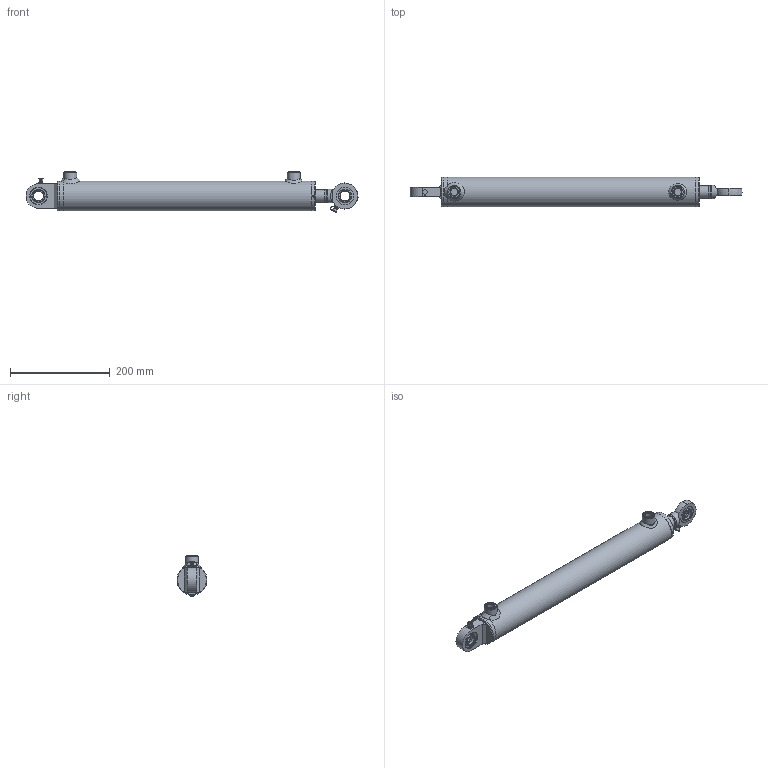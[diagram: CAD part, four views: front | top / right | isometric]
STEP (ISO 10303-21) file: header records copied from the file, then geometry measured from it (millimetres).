
FILE_DESCRIPTION( ( 'Unknown' ), '1' );
FILE_NAME( 'E:/LIBRERIA_3d/CILINDRI/HMB/HMB2250400.stp', 'Unknown', ( 'Unknown' ), ( 'Unknown' ), 'PSStep 17.0.49', 'Unknown', ' ' );
FILE_SCHEMA( ( 'AUTOMOTIVE_DESIGN { 1 0 10303 214 1 1 1 1 }' ) );
Length unit declared in the file: millimetre
Products named in the file (38): CSTSF020N0; AN00006001; CSTS020N_CORPO-oa0; CSAI002035; CSAI002035-oa1; STL2500400-oa8; Saldatura d'angolo 1-oa6; FTM2500400-oa7; CBSC220600; cstsf020c0; tsc20c_CORPO; CG06005025; CT00050020; CSTS020N00; CGE0200000; APGR013000; CSTS020C00; HM02250400; Saldatura con preparazione 1-oa4; Saldatura d'angolo 1-oa5; CF00050060; CBS0600000; CDA0002015; APG0600000; SBL2520400; Assem1; Saldatura d'angolo 1-oa2; Saldatura d'angolo 2-oa3
Assembly tree (30 placements, depth 4):
  Saldatura d'angolo 1-oa6
  Saldatura d'angolo 1-oa6
  Saldatura d'angolo 1-oa5
  Saldatura d'angolo 1-oa5
  Assem1
    CSTS020N00
      CGE0200000
      APGR013000
      CSTSF020N0
        AN00006001
        CSTS020N_CORPO-oa0
        CSAI002035
        CSAI002035-oa1
    CSTS020C00
      CGE0200000
      APGR013000
      cstsf020c0
        tsc20c_CORPO
        AN00006001
    HM02250400
      Saldatura con preparazione 1-oa4
      Saldatura con preparazione 1-oa4
      CF00050060
      CBS0600000
      CDA0002015
      APG0600000  x2
      SBL2520400
      CT00050020
        CT00050020
      CG06005025
        CG06005025
      STL2500400-oa8
        FTM2500400-oa7
        CBSC220600
Bounding box: 667.31 x 60 x 81.82 mm (x, y, z)
Volume: 921790.8 mm3; surface area: 316367.1 mm2
Topology: 32 solids, 32 shells, 363 faces, 747 edges, 473 vertices
Faces by surface type: plane 144, cylinder 92, cone 46, torus 46, bspline 28, sphere 7
Full cylindrical faces by diameter (mm): 2 x4, 3 x1, 4 x3, 4.25 x2, 5 x7, 6 x2, 7 x2, 8 x2, 9 x2, 14.95 x2, 16 x2, 16.6 x2, 19.4 x1, 20 x9, 22 x2, 24.5 x1, 25 x4, 26 x2, 27 x1, 27.5 x1, 28 x1, 30 x1, 33 x2, 33.6 x1, 34 x1, 35 x9, 45 x1, 45.41 x2, 48.66 x2, 49.9 x1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
Entity records: 14301 total; most frequent: CARTESIAN_POINT 5533, DIRECTION 1306, ORIENTED_EDGE 840, AXIS2_PLACEMENT_3D 590, EDGE_LOOP 563, FACE_OUTER_BOUND 448, EDGE_CURVE 420, VERTEX_POINT 361
